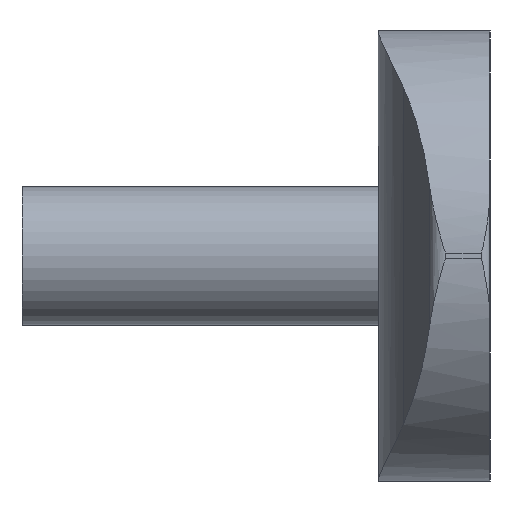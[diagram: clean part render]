
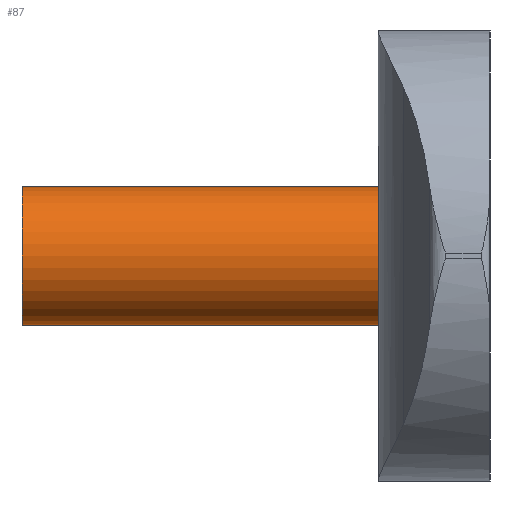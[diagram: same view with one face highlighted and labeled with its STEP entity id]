
A CAD part, left-side view. The second image highlights one B-rep face of the part: STEP entity #87.
In plain terms, the highlighted cylindrical face has radius 4 mm (diameter 8 mm), a partial arc.
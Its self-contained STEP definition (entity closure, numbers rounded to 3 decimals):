
#87 = ADVANCED_FACE( '', ( #140 ), #141, .T. );
#140 = FACE_OUTER_BOUND( '', #226, .T. );
#141 = CYLINDRICAL_SURFACE( '', #227, 4. );
#226 = EDGE_LOOP( '', ( #364, #365, #366, #367 ) );
#227 = AXIS2_PLACEMENT_3D( '', #368, #369, #370 );
#364 = ORIENTED_EDGE( '', *, *, #624, .F. );
#365 = ORIENTED_EDGE( '', *, *, #625, .F. );
#366 = ORIENTED_EDGE( '', *, *, #626, .F. );
#367 = ORIENTED_EDGE( '', *, *, #627, .T. );
#368 = CARTESIAN_POINT( '', ( -1., 0., 0. ) );
#369 = DIRECTION( '', ( 0., 1., 0. ) );
#370 = DIRECTION( '', ( 0., 0., -1. ) );
#624 = EDGE_CURVE( '', #736, #737, #738, .T. );
#625 = EDGE_CURVE( '', #739, #736, #740, .T. );
#626 = EDGE_CURVE( '', #741, #739, #742, .T. );
#627 = EDGE_CURVE( '', #741, #737, #743, .T. );
#736 = VERTEX_POINT( '', #904 );
#737 = VERTEX_POINT( '', #905 );
#738 = CIRCLE( '', #906, 4. );
#739 = VERTEX_POINT( '', #907 );
#740 = LINE( '', #908, #909 );
#741 = VERTEX_POINT( '', #910 );
#742 = CIRCLE( '', #911, 4. );
#743 = LINE( '', #912, #913 );
#904 = CARTESIAN_POINT( '', ( -1., -20.54, 4. ) );
#905 = CARTESIAN_POINT( '', ( -1., -20.54, -4. ) );
#906 = AXIS2_PLACEMENT_3D( '', #1348, #1349, #1350 );
#907 = CARTESIAN_POINT( '', ( -1., 0., 4. ) );
#908 = CARTESIAN_POINT( '', ( -1., 0., 4. ) );
#909 = VECTOR( '', #1351, 1. );
#910 = CARTESIAN_POINT( '', ( -1., 0., -4. ) );
#911 = AXIS2_PLACEMENT_3D( '', #1352, #1353, #1354 );
#912 = CARTESIAN_POINT( '', ( -1., 0., -4. ) );
#913 = VECTOR( '', #1355, 1. );
#1348 = CARTESIAN_POINT( '', ( -1., -20.54, 0. ) );
#1349 = DIRECTION( '', ( 0., -1., 0. ) );
#1350 = DIRECTION( '', ( 0., 0., -1. ) );
#1351 = DIRECTION( '', ( 0., -1., 0. ) );
#1352 = CARTESIAN_POINT( '', ( -1., 0., 0. ) );
#1353 = DIRECTION( '', ( 0., 1., 0. ) );
#1354 = DIRECTION( '', ( 0., 0., -1. ) );
#1355 = DIRECTION( '', ( 0., -1., 0. ) );
